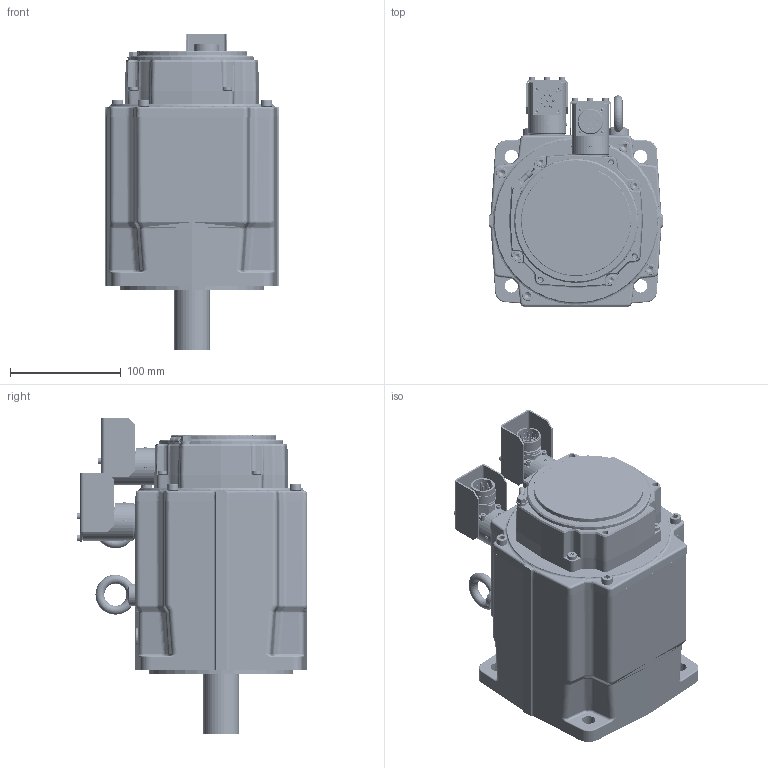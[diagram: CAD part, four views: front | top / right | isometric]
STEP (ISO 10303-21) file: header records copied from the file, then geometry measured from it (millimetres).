
FILE_DESCRIPTION((''),'2;1');
FILE_NAME('EY820EAR7010_ASM','2016-10-19T',('pf73167'),(''),'PRO/ENGINEER BY PARAMETRIC TECHNOLOGY CORPORATION, 2009400','PRO/ENGINEER BY PARAMETRIC TECHNOLOGY CORPORATION, 2009400','');
FILE_SCHEMA(('CONFIG_CONTROL_DESIGN'));
Length unit declared in the file: millimetre
Products named in the file (55): 344441P0017; 5116P1319; 1150P0512; 301026P0003; 344463P0001; 344232P0001; 344212P0003; 344232P0001_ASM; 344461R0001_ASM; 5116P1327; 1711P0002; 1640P0001; 5340P0097; 344440P0001; 344231P0002; BOB_344465R2000; 344465R2000_ASM; 344466R2000_ASM; SURMOULAGE_344467R2001; 344467R2001_ASM; 5320P0029; 1150P0610; 1613P0034; 1613P0035; 282280P0012; 220005P1002; 344509P0001; 1643P0104; 1143P0405; 5340P0071; 344191P0021; 1190P0001; 6942P0012; 1143P0510; 345359P0002; 5340P0124; 5340P0125; 1150P0204; 345359P0001; 1170P0042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
Assembly tree (120 placements, depth 5):
  EY820EAR7010_ASM
    344441P0017
    5116P1319
    1150P0512  x3
    301026P0003
    344461R0001_ASM
      344463P0001
      344232P0001_ASM
        344232P0001
        344212P0003  x2
    5116P1327
    1711P0002
    1640P0001  x3
    5340P0097
    344467R2001_ASM
      344440P0001
      344466R2000_ASM
        344465R2000_ASM
          344231P0002
          BOB_344465R2000
      SURMOULAGE_344467R2001
    5320P0029
    1150P0610  x4
    1613P0034  x2
    1613P0035  x2
    282280P0012
    220005P1002
    344509P0001
    1643P0104  x3
    1143P0405  x3
    5340P0071
    344191P0021
    1190P0001  x2
    6942P0012
    1143P0510  x4
    345359R1010_800_ASM
      345359P0002
      5340P0124
      5340P0125
      1150P0204  x8
      345359P0001
      1170P0042  x4
      220132P1010_ASM
        220132P1010_0001
        220132P1010_0002
        220132P0111  x4
        220132P0120  x3
      345359P0003
      1150P0305  x3
    345359R1020_800_ASM
      345359P0002
      5340P0124
      5340P0125
      1150P0204  x8
      345359P0001
      1170P0042  x4
      220132P1020
      220132P0112  x12
      345359P0003
      1150P0305  x3
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Bounding box: 157 x 207.7 x 286 mm (x, y, z)
Volume: 3262294.9 mm3; surface area: 831238.8 mm2
Topology: 119 solids, 121 shells, 5765 faces, 13589 edges, 8255 vertices
Faces by surface type: plane 2037, cylinder 1726, cone 924, bspline 659, torus 357, sphere 52, extrusion 10
Entity records: 147168 total; most frequent: CARTESIAN_POINT 51446, ORIENTED_EDGE 20160, DIRECTION 19034, EDGE_CURVE 10080, AXIS2_PLACEMENT_3D 7022, VERTEX_POINT 6305, VECTOR 4990, LINE 4980
